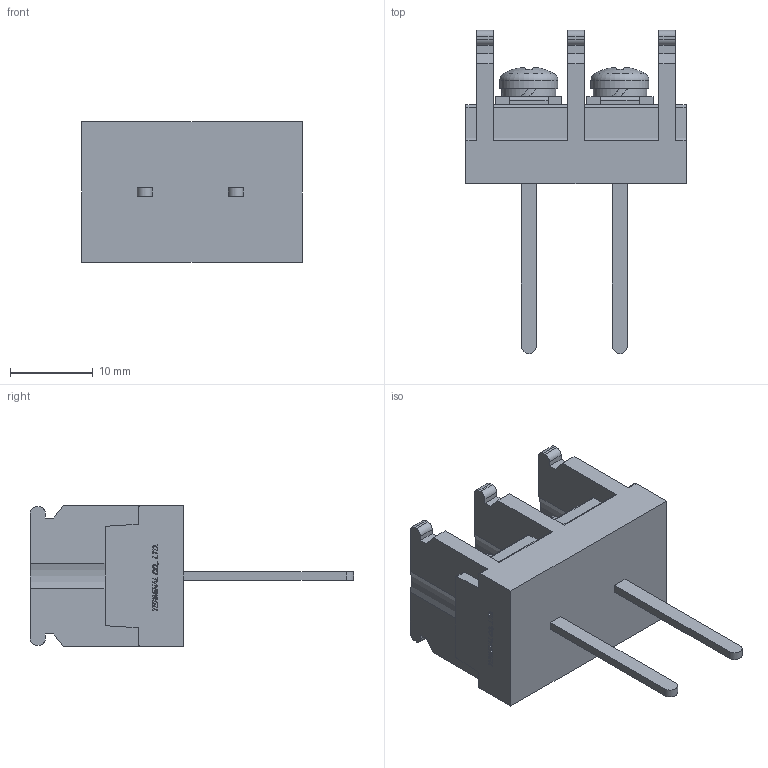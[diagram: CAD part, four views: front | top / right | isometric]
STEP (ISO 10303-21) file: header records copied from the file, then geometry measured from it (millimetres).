
FILE_DESCRIPTION(/* description */ ('Alibre Inc.'),/* implementation_level */ '2;1');
FILE_NAME(/* name */ 'export0',/* time_stamp */ '2015-10-20T07:39:40+09:00',/* author */ (''),/* organization */ (''),/* preprocessor_version */ 'ST-DEVELOPER v14',/* originating_system */ 'Alibre',/* authorisation */ '');
FILE_SCHEMA (('CONFIG_CONTROL_DESIGN'));
Length unit declared in the file: centimetre
Products named in the file (1): ID_1
Bounding box: 26.6 x 39 x 17 mm (x, y, z)
Volume: 5157.7 mm3; surface area: 3343.5 mm2
Topology: 1 solids, 1 shells, 558 faces, 1524 edges, 1014 vertices
Faces by surface type: plane 394, bspline 104, cylinder 46, cone 8, torus 4, sphere 2
Full cylindrical faces by diameter (mm): 4 x2, 6.5 x2, 7 x2
Entity records: 17187 total; most frequent: CARTESIAN_POINT 4061, ORIENTED_EDGE 3020, DIRECTION 1936, EDGE_CURVE 1510, VECTOR 1130, LINE 1130, VERTEX_POINT 1008, EDGE_LOOP 616
